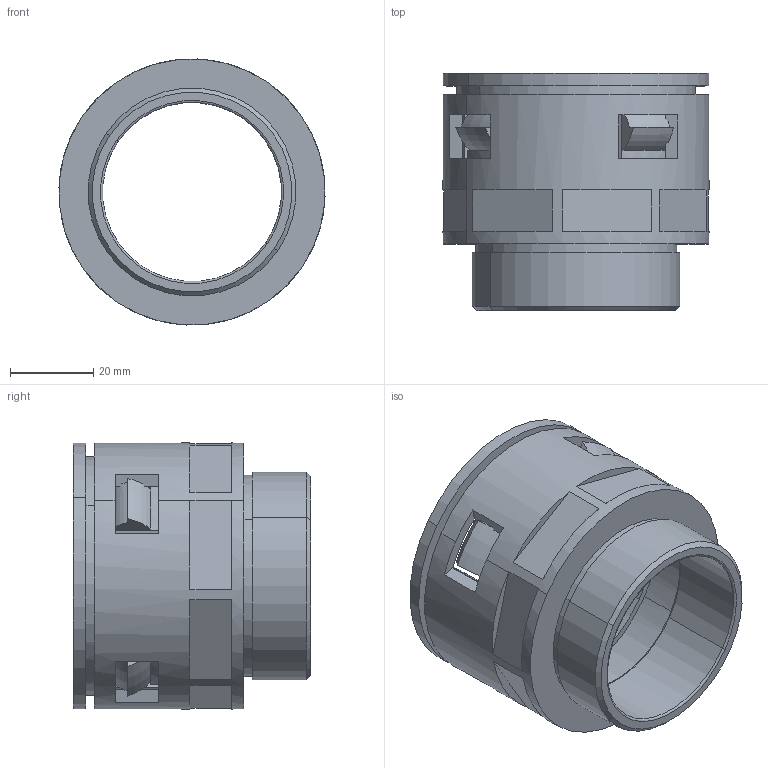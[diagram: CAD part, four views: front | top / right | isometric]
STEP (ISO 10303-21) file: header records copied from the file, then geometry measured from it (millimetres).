
FILE_DESCRIPTION (( 'STEP AP203' ), '1' );
FILE_NAME ('WQG-M50-AD54.5.SLDPRT.STEP', '2012-05-30T04:49:25', ( '迾輿躂瑞' ), ( 'WwW.YlmF.CoM' ), 'SwSTEP 2.0', 'SolidWorks 2010', '' );
FILE_SCHEMA (( 'CONFIG_CONTROL_DESIGN' ));
Length unit declared in the file: millimetre
Products named in the file (3): NSK-AD54.5; WQG-M50-AD54.5.SLDPRT; WQG-M50-AD54.5-01
Assembly tree (2 placements, depth 2):
  WQG-M50-AD54.5.SLDPRT
    WQG-M50-AD54.5-01
    NSK-AD54.5
Bounding box: 63.96 x 57 x 63.95 mm (x, y, z)
Volume: 33855.5 mm3; surface area: 32452.9 mm2
Topology: 2 solids, 2 shells, 135 faces, 370 edges, 241 vertices
Faces by surface type: plane 88, cylinder 26, torus 14, cone 7
Entity records: 4804 total; most frequent: CARTESIAN_POINT 927, DIRECTION 789, ORIENTED_EDGE 740, EDGE_CURVE 370, AXIS2_PLACEMENT_3D 303, VERTEX_POINT 241, LINE 183, VECTOR 183
